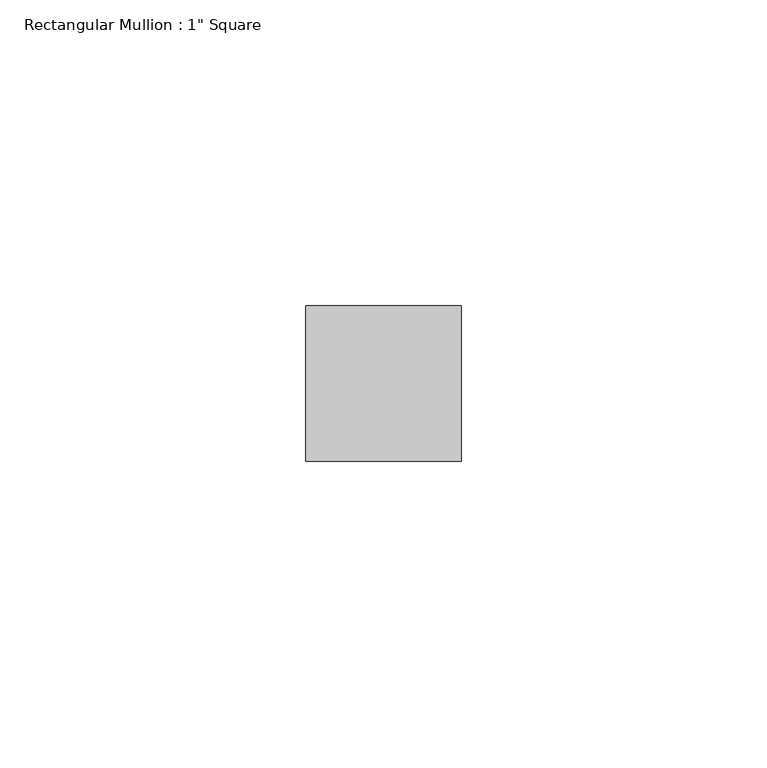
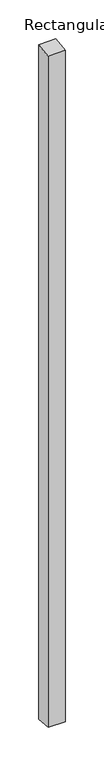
"""IFC4 building model written with IfcOpenShell, lengths in millimetres: member geometry."""

from ifc_helpers import new_model, si_unit, origin, place, context, project, spatial, faceted_brep, source, transform, mapped, element, save


def member_656fa572(model_context):
    return source(origin(), model_context, "Body", "Brep", [
        faceted_brep([(-25.4, 12.7, 0.8295612), (0.0, 12.7, 1.4583503), (0.0, 12.7, -1068.2583503), (-25.4, 12.7, -1067.6295612), (-25.4, -12.7, -2.0871393), (-25.4, -12.7, -1064.7128607), (0.0, -12.7, -1.4583503), (0.0, -12.7, -1065.3416497)], [[[0, 1, 2, 3]], [[4, 0, 3, 5]], [[6, 4, 5, 7]], [[1, 6, 7, 2]], [[1, 0, 4, 6]], [[2, 7, 5, 3]]]),
    ])


if __name__ == "__main__":
    model = new_model("IFC4")
    model_context = context("Model", 3, world=origin())
    ifc_project = project(units=[si_unit("LENGTHUNIT", "METRE", prefix="MILLI")], contexts=[model_context])
    site = spatial("IfcSite", under=ifc_project)
    building = spatial("IfcBuilding", under=site)
    placement = place(None, origin())
    member_shape = member_656fa572(model_context)
    element("IfcMember", 1, ObjectType="Rectangular Mullion : 1\" Square", at=placement, inside=building, context=model_context, shape_type="MappedRepresentation", body=[
        mapped(member_shape, transform((0.0, 0.0, 0.0), x_axis=(1.0, 0.0, 0.0), y_axis=(0.0, 1.0, 0.0), z_axis=(0.0, 0.0, 1.0))),
    ])
    save(model, "model.ifc")
